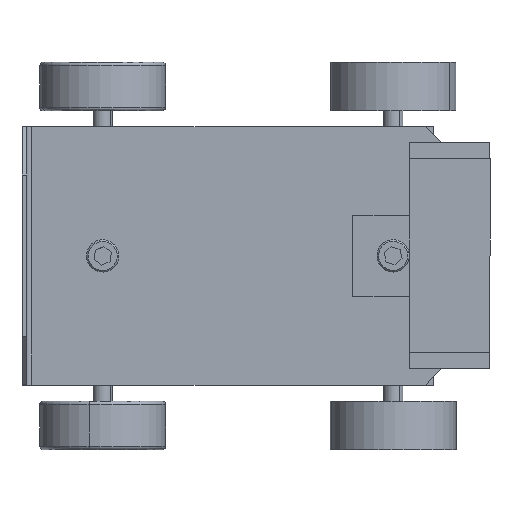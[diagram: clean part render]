
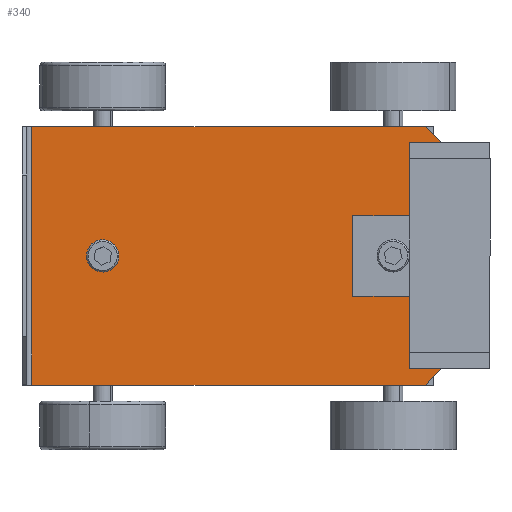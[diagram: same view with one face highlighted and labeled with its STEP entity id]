
A CAD part, top view. The second image highlights one B-rep face of the part: STEP entity #340.
In plain terms, the highlighted planar face has unit normal (0, 0, 1).
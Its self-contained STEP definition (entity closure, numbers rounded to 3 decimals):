
#51 = FACE_OUTER_BOUND ( 'NONE', #1375, .T. ) ;
#124 = EDGE_CURVE ( 'NONE', #2566, #4855, #4384, .T. ) ;
#133 = CARTESIAN_POINT ( 'NONE',  ( -67., -40., 1.5 ) ) ;
#240 = DIRECTION ( 'NONE',  ( 1., 0., 0. ) ) ;
#300 = ORIENTED_EDGE ( 'NONE', *, *, #2314, .T. ) ;
#312 = ORIENTED_EDGE ( 'NONE', *, *, #2486, .T. ) ;
#340 = ADVANCED_FACE ( 'NONE', ( #3845, #4465, #51 ), #1738, .T. ) ;
#516 = AXIS2_PLACEMENT_3D ( 'NONE', #881, #3175, #1439 ) ;
#790 = AXIS2_PLACEMENT_3D ( 'NONE', #6103, #6727, #5142 ) ;
#795 = EDGE_LOOP ( 'NONE', ( #6980, #3894 ) ) ;
#798 = EDGE_CURVE ( 'NONE', #4756, #3887, #5649, .T. ) ;
#810 = DIRECTION ( 'NONE',  ( -1., 0., 0. ) ) ;
#813 = CARTESIAN_POINT ( 'NONE',  ( 70., -40., 1.5 ) ) ;
#817 = CARTESIAN_POINT ( 'NONE',  ( 41.75, 0., 1.5 ) ) ;
#872 = CARTESIAN_POINT ( 'NONE',  ( 47.5, -47.5, 1.5 ) ) ;
#881 = CARTESIAN_POINT ( 'NONE',  ( -45., 0., 1.5 ) ) ;
#898 = AXIS2_PLACEMENT_3D ( 'NONE', #5143, #6798, #240 ) ;
#1079 = CARTESIAN_POINT ( 'NONE',  ( 0., 0., 1.5 ) ) ;
#1086 = ORIENTED_EDGE ( 'NONE', *, *, #3382, .T. ) ;
#1156 = CARTESIAN_POINT ( 'NONE',  ( 45., 0., 1.5 ) ) ;
#1239 = LINE ( 'NONE', #6219, #3375 ) ;
#1375 = EDGE_LOOP ( 'NONE', ( #2573, #6212, #4301, #312, #1086, #300 ) ) ;
#1439 = DIRECTION ( 'NONE',  ( 1., 0., 0. ) ) ;
#1602 = DIRECTION ( 'NONE',  ( 0., 0., 1. ) ) ;
#1643 = VERTEX_POINT ( 'NONE', #3067 ) ;
#1738 = PLANE ( 'NONE',  #4962 ) ;
#1794 = EDGE_CURVE ( 'NONE', #3887, #4756, #4470, .T. ) ;
#1878 = DIRECTION ( 'NONE',  ( 1., 0., 0. ) ) ;
#2314 = EDGE_CURVE ( 'NONE', #7185, #6561, #3642, .T. ) ;
#2486 = EDGE_CURVE ( 'NONE', #1643, #4820, #1239, .T. ) ;
#2566 = VERTEX_POINT ( 'NONE', #817 ) ;
#2567 = DIRECTION ( 'NONE',  ( -0.707, 0.707, 0. ) ) ;
#2573 = ORIENTED_EDGE ( 'NONE', *, *, #7031, .T. ) ;
#2586 = CIRCLE ( 'NONE', #5351, 3.25 ) ;
#2981 = CARTESIAN_POINT ( 'NONE',  ( 70., -25., 1.5 ) ) ;
#3032 = DIRECTION ( 'NONE',  ( 0., 1., 0. ) ) ;
#3067 = CARTESIAN_POINT ( 'NONE',  ( -67., 40., 1.5 ) ) ;
#3097 = DIRECTION ( 'NONE',  ( 0.707, 0.707, 0. ) ) ;
#3175 = DIRECTION ( 'NONE',  ( 0., 0., 1. ) ) ;
#3300 = CARTESIAN_POINT ( 'NONE',  ( 55., 40., 1.5 ) ) ;
#3375 = VECTOR ( 'NONE', #4170, 1000. ) ;
#3382 = EDGE_CURVE ( 'NONE', #4820, #7185, #6903, .T. ) ;
#3428 = CARTESIAN_POINT ( 'NONE',  ( 55., -40., 1.5 ) ) ;
#3507 = VECTOR ( 'NONE', #1878, 1000. ) ;
#3600 = VERTEX_POINT ( 'NONE', #3300 ) ;
#3642 = LINE ( 'NONE', #872, #6415 ) ;
#3675 = VECTOR ( 'NONE', #3032, 1000. ) ;
#3845 = FACE_BOUND ( 'NONE', #795, .T. ) ;
#3872 = CARTESIAN_POINT ( 'NONE',  ( 70., 40., 1.5 ) ) ;
#3887 = VERTEX_POINT ( 'NONE', #6963 ) ;
#3894 = ORIENTED_EDGE ( 'NONE', *, *, #1794, .F. ) ;
#4027 = DIRECTION ( 'NONE',  ( 0., 0., 1. ) ) ;
#4170 = DIRECTION ( 'NONE',  ( 0., -1., 0. ) ) ;
#4212 = VECTOR ( 'NONE', #2567, 1000. ) ;
#4239 = VECTOR ( 'NONE', #810, 1000. ) ;
#4301 = ORIENTED_EDGE ( 'NONE', *, *, #4488, .T. ) ;
#4308 = LINE ( 'NONE', #5451, #4212 ) ;
#4384 = CIRCLE ( 'NONE', #898, 3.25 ) ;
#4429 = DIRECTION ( 'NONE',  ( 1., 0., 0. ) ) ;
#4465 = FACE_BOUND ( 'NONE', #5186, .T. ) ;
#4470 = CIRCLE ( 'NONE', #516, 3.25 ) ;
#4488 = EDGE_CURVE ( 'NONE', #3600, #1643, #7190, .T. ) ;
#4569 = CARTESIAN_POINT ( 'NONE',  ( 70., 25., 1.5 ) ) ;
#4756 = VERTEX_POINT ( 'NONE', #6959 ) ;
#4820 = VERTEX_POINT ( 'NONE', #133 ) ;
#4855 = VERTEX_POINT ( 'NONE', #6761 ) ;
#4962 = AXIS2_PLACEMENT_3D ( 'NONE', #1079, #1602, #4429 ) ;
#4986 = ORIENTED_EDGE ( 'NONE', *, *, #5200, .F. ) ;
#5140 = CARTESIAN_POINT ( 'NONE',  ( 70., -40., 1.5 ) ) ;
#5142 = DIRECTION ( 'NONE',  ( 1., 0., 0. ) ) ;
#5143 = CARTESIAN_POINT ( 'NONE',  ( 45., 0., 1.5 ) ) ;
#5186 = EDGE_LOOP ( 'NONE', ( #4986, #6477 ) ) ;
#5200 = EDGE_CURVE ( 'NONE', #4855, #2566, #2586, .T. ) ;
#5351 = AXIS2_PLACEMENT_3D ( 'NONE', #1156, #4027, #6249 ) ;
#5451 = CARTESIAN_POINT ( 'NONE',  ( 47.5, 47.5, 1.5 ) ) ;
#5649 = CIRCLE ( 'NONE', #790, 3.25 ) ;
#5961 = EDGE_CURVE ( 'NONE', #6750, #3600, #4308, .T. ) ;
#6103 = CARTESIAN_POINT ( 'NONE',  ( -45., 0., 1.5 ) ) ;
#6212 = ORIENTED_EDGE ( 'NONE', *, *, #5961, .T. ) ;
#6219 = CARTESIAN_POINT ( 'NONE',  ( -67., 0., 1.5 ) ) ;
#6249 = DIRECTION ( 'NONE',  ( 1., 0., 0. ) ) ;
#6415 = VECTOR ( 'NONE', #3097, 1000. ) ;
#6477 = ORIENTED_EDGE ( 'NONE', *, *, #124, .F. ) ;
#6561 = VERTEX_POINT ( 'NONE', #2981 ) ;
#6727 = DIRECTION ( 'NONE',  ( 0., 0., 1. ) ) ;
#6750 = VERTEX_POINT ( 'NONE', #4569 ) ;
#6761 = CARTESIAN_POINT ( 'NONE',  ( 48.25, 0., 1.5 ) ) ;
#6798 = DIRECTION ( 'NONE',  ( 0., 0., 1. ) ) ;
#6903 = LINE ( 'NONE', #5140, #3507 ) ;
#6929 = LINE ( 'NONE', #813, #3675 ) ;
#6959 = CARTESIAN_POINT ( 'NONE',  ( -41.75, 0., 1.5 ) ) ;
#6963 = CARTESIAN_POINT ( 'NONE',  ( -48.25, 0., 1.5 ) ) ;
#6980 = ORIENTED_EDGE ( 'NONE', *, *, #798, .F. ) ;
#7031 = EDGE_CURVE ( 'NONE', #6561, #6750, #6929, .T. ) ;
#7185 = VERTEX_POINT ( 'NONE', #3428 ) ;
#7190 = LINE ( 'NONE', #3872, #4239 ) ;
